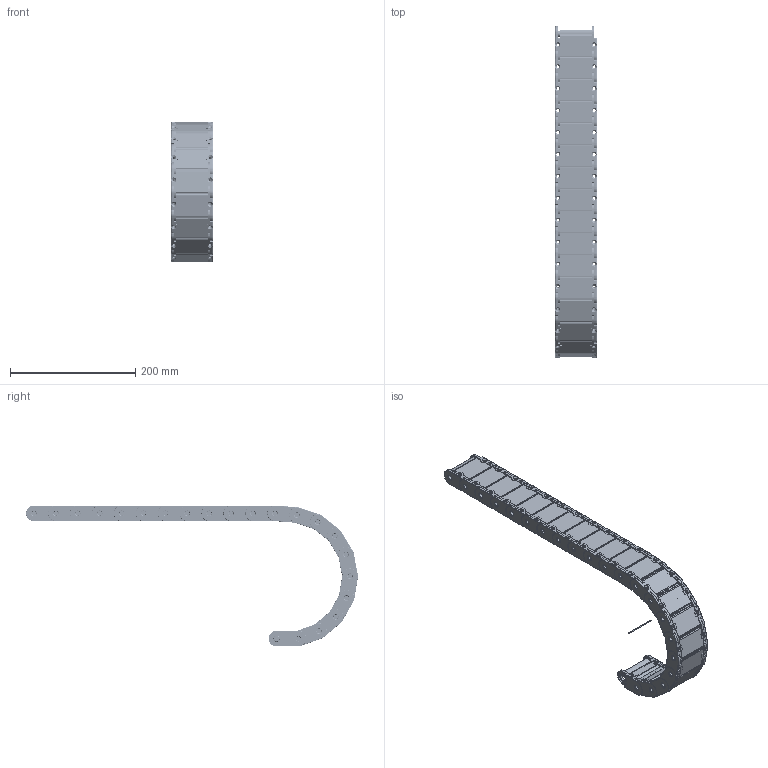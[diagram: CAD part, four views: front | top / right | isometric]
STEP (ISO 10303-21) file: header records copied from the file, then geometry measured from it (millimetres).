
FILE_DESCRIPTION((''),'2;1');
FILE_NAME('C:\Uebbing\TRACE PARTS\PKK 115\PKK 115 vereinfacht.stp','2013-04-30T12:53:16',('Uebbing'),(''),'Autodesk Inventor 10','Autodesk Inventor 10','');
FILE_SCHEMA(('AUTOMOTIVE_DESIGN { 1 0 10303 214 1 1 1 1 }'));
Length unit declared in the file: millimetre
Products named in the file (7): PKK 115 vereinfacht PARAMETRISCH; Achse; PKK 110 Gliedvereinfacht; PKK 110 Laschevereinfacht; PKK 125 ASI; PKK 125 ASA; PKK 125 PZGvereinfacht
Assembly tree (27 placements, depth 3):
  PKK 115 vereinfacht PARAMETRISCH
    Achse
    PKK 110 Gliedvereinfacht  x21
      PKK 110 Laschevereinfacht
      PKK 125 ASI
      PKK 125 ASA
      PKK 125 PZGvereinfacht
Bounding box: 66 x 529.83 x 225 mm (x, y, z)
Volume: 358906 mm3; surface area: 432267.5 mm2
Topology: 106 solids, 106 shells, 4140 faces, 10777 edges, 7059 vertices
Faces by surface type: plane 1976, cylinder 1492, bspline 420, torus 168, cone 84
Full cylindrical faces by diameter (mm): 1 x1, 4.3 x42, 7.2 x42, 10 x42, 10.1 x42, 12.9 x84, 21.4 x84
Entity records: 4605 total; most frequent: CARTESIAN_POINT 849, DIRECTION 783, ORIENTED_EDGE 694, EDGE_CURVE 347, AXIS2_PLACEMENT_3D 280, VERTEX_POINT 236, VECTOR 223, LINE 223
